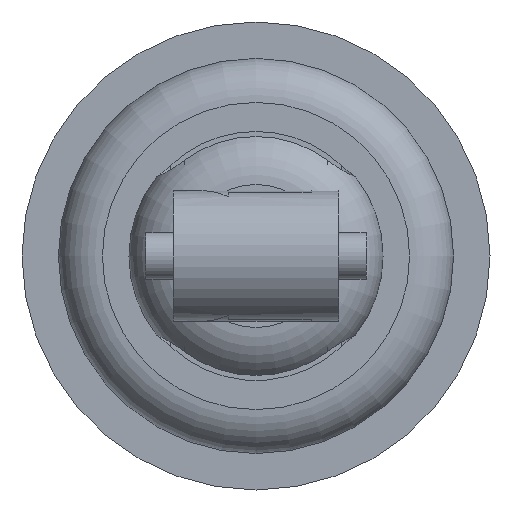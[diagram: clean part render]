
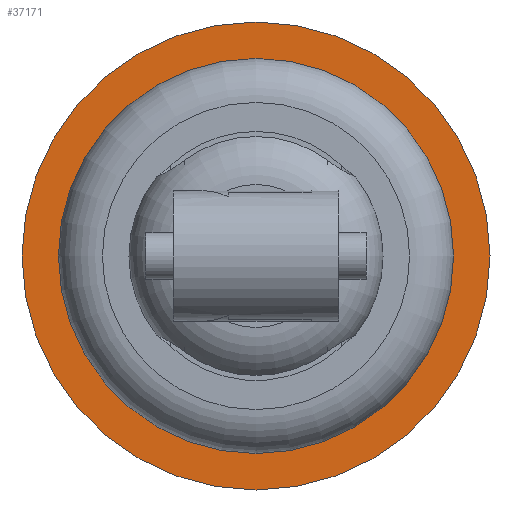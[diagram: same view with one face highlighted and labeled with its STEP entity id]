
A CAD part, front view. The second image highlights one B-rep face of the part: STEP entity #37171.
In plain terms, the highlighted planar face has unit normal (0, -1, 0).
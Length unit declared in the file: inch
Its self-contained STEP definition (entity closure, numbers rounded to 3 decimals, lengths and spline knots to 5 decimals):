
#2720 = EDGE_LOOP ( 'NONE', ( #27357 ) ) ;
#3956 = EDGE_CURVE ( 'NONE', #41381, #41381, #29504, .T. ) ;
#13380 = CARTESIAN_POINT ( 'NONE',  ( -4.25, 17.61825, 0. ) ) ;
#17893 = DIRECTION ( 'NONE',  ( 0., 0., 1. ) ) ;
#18615 = DIRECTION ( 'NONE',  ( 0., 1., 0. ) ) ;
#20591 = CARTESIAN_POINT ( 'NONE',  ( 0., 17.61825, 0. ) ) ;
#20717 = CIRCLE ( 'NONE', #24634, 4.25 ) ;
#20953 = FACE_OUTER_BOUND ( 'NONE', #2720, .T. ) ;
#24380 = FACE_BOUND ( 'NONE', #38199, .T. ) ;
#24634 = AXIS2_PLACEMENT_3D ( 'NONE', #20591, #31822, #42802 ) ;
#26501 = CARTESIAN_POINT ( 'NONE',  ( 0., 17.61825, 3.58843 ) ) ;
#27357 = ORIENTED_EDGE ( 'NONE', *, *, #34504, .F. ) ;
#28762 = DIRECTION ( 'NONE',  ( 0., -1., 0. ) ) ;
#29504 = CIRCLE ( 'NONE', #39636, 3.58843 ) ;
#31822 = DIRECTION ( 'NONE',  ( 0., 1., 0. ) ) ;
#32571 = CARTESIAN_POINT ( 'NONE',  ( 0., 17.61825, 4.25 ) ) ;
#32635 = ORIENTED_EDGE ( 'NONE', *, *, #3956, .T. ) ;
#33580 = AXIS2_PLACEMENT_3D ( 'NONE', #13380, #28762, #39262 ) ;
#34504 = EDGE_CURVE ( 'NONE', #39649, #39649, #20717, .T. ) ;
#37171 = ADVANCED_FACE ( 'NONE', ( #24380, #20953 ), #46818, .T. ) ;
#38199 = EDGE_LOOP ( 'NONE', ( #32635 ) ) ;
#39262 = DIRECTION ( 'NONE',  ( 0., 0., -1. ) ) ;
#39636 = AXIS2_PLACEMENT_3D ( 'NONE', #44490, #18615, #17893 ) ;
#39649 = VERTEX_POINT ( 'NONE', #32571 ) ;
#41381 = VERTEX_POINT ( 'NONE', #26501 ) ;
#42802 = DIRECTION ( 'NONE',  ( 0., 0., 1. ) ) ;
#44490 = CARTESIAN_POINT ( 'NONE',  ( 0., 17.61825, 0. ) ) ;
#46818 = PLANE ( 'NONE',  #33580 ) ;
